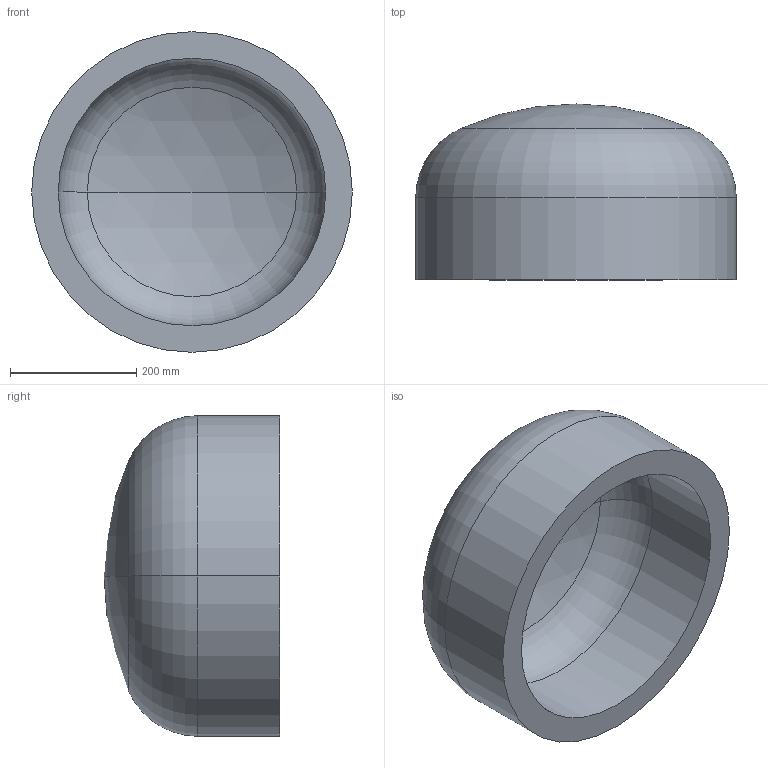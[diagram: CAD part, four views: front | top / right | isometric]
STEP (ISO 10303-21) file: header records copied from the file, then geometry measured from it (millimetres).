
FILE_DESCRIPTION (( 'STEP AP203' ), '1' );
FILE_NAME ('DIN 28013 Korbbogenform_-_Boden DIN 28013 - 508 x 130 - I - s=42.step', '2016-07-01T07:54:52', ( '' ), ( '' ), 'SwSTEP 2.0', 'SolidWorks 2013', '' );
FILE_SCHEMA (( 'CONFIG_CONTROL_DESIGN' ));
Length unit declared in the file: millimetre
Products named in the file (1): DIN 28013 Korbbogenform_-_Boden DIN 28013 - 508 x 130 - I - s=42
Bounding box: 508 x 278.62 x 508 mm (x, y, z)
Volume: 18617081.6 mm3; surface area: 951709.3 mm2
Topology: 1 solids, 1 shells, 13 faces, 24 edges, 14 vertices
Faces by surface type: torus 4, cylinder 4, sphere 4, plane 1
Entity records: 407 total; most frequent: DIRECTION 72, CARTESIAN_POINT 52, ORIENTED_EDGE 48, AXIS2_PLACEMENT_3D 34, EDGE_CURVE 24, CIRCLE 20, EDGE_LOOP 14, VERTEX_POINT 14
